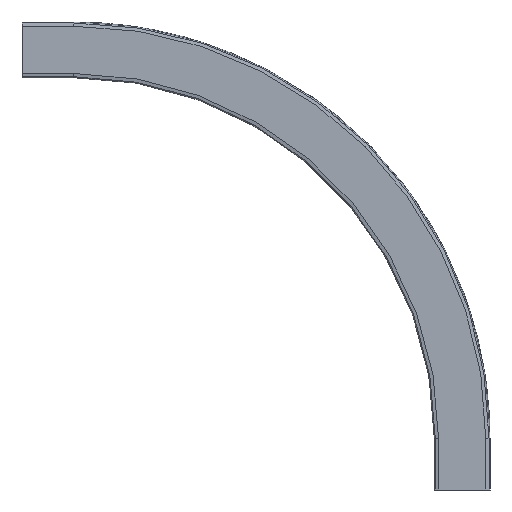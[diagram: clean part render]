
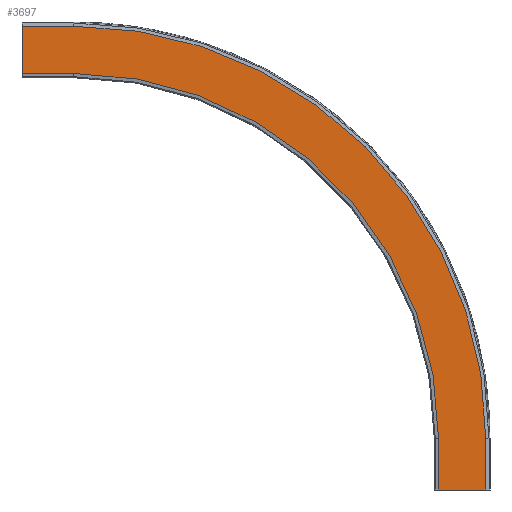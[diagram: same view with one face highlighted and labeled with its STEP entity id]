
A CAD part, front view. The second image highlights one B-rep face of the part: STEP entity #3697.
In plain terms, the highlighted planar face has unit normal (0, -1, 0).
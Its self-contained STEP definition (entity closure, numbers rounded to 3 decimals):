
#399=FACE_OUTER_BOUND('',#607,.T.);
#607=EDGE_LOOP('',(#3369,#3370,#3371,#3372,#3373,#3374,#3375,#3376));
#709=CIRCLE('',#3974,636.5);
#712=CIRCLE('',#3980,563.5);
#1050=LINE('',#6977,#1416);
#1055=LINE('',#6986,#1421);
#1057=LINE('',#6991,#1423);
#1072=LINE('',#7031,#1438);
#1077=LINE('',#7042,#1443);
#1078=LINE('',#7044,#1444);
#1416=VECTOR('',#4815,10.);
#1421=VECTOR('',#4822,10.);
#1423=VECTOR('',#4826,10.);
#1438=VECTOR('',#4867,10.);
#1443=VECTOR('',#4880,10.);
#1444=VECTOR('',#4883,10.);
#1772=VERTEX_POINT('',#6974);
#1773=VERTEX_POINT('',#6976);
#1776=VERTEX_POINT('',#6983);
#1777=VERTEX_POINT('',#6988);
#1787=VERTEX_POINT('',#7014);
#1789=VERTEX_POINT('',#7024);
#1790=VERTEX_POINT('',#7029);
#1792=VERTEX_POINT('',#7040);
#2288=EDGE_CURVE('',#1773,#1772,#1050,.T.);
#2293=EDGE_CURVE('',#1773,#1776,#1055,.T.);
#2295=EDGE_CURVE('',#1772,#1777,#1057,.T.);
#2308=EDGE_CURVE('',#1777,#1787,#709,.T.);
#2314=EDGE_CURVE('',#1776,#1789,#712,.T.);
#2316=EDGE_CURVE('',#1787,#1790,#1072,.T.);
#2321=EDGE_CURVE('',#1789,#1792,#1077,.T.);
#2322=EDGE_CURVE('',#1790,#1792,#1078,.T.);
#3369=ORIENTED_EDGE('',*,*,#2322,.T.);
#3370=ORIENTED_EDGE('',*,*,#2321,.F.);
#3371=ORIENTED_EDGE('',*,*,#2314,.F.);
#3372=ORIENTED_EDGE('',*,*,#2293,.F.);
#3373=ORIENTED_EDGE('',*,*,#2288,.T.);
#3374=ORIENTED_EDGE('',*,*,#2295,.T.);
#3375=ORIENTED_EDGE('',*,*,#2308,.T.);
#3376=ORIENTED_EDGE('',*,*,#2316,.T.);
#3506=PLANE('',#3986);
#3697=ADVANCED_FACE('',(#399),#3506,.T.);
#3974=AXIS2_PLACEMENT_3D('',#7016,#4847,#4848);
#3980=AXIS2_PLACEMENT_3D('',#7027,#4862,#4863);
#3986=AXIS2_PLACEMENT_3D('',#7043,#4881,#4882);
#4815=DIRECTION('',(1.,0.,0.));
#4822=DIRECTION('',(0.,0.,1.));
#4826=DIRECTION('',(0.,0.,1.));
#4847=DIRECTION('center_axis',(0.,-1.,0.));
#4848=DIRECTION('ref_axis',(1.,0.,0.));
#4862=DIRECTION('center_axis',(0.,-1.,0.));
#4863=DIRECTION('ref_axis',(1.,0.,0.));
#4867=DIRECTION('',(-1.,0.,0.));
#4880=DIRECTION('',(-1.,0.,0.));
#4881=DIRECTION('center_axis',(0.,-1.,0.));
#4882=DIRECTION('ref_axis',(1.,0.,0.));
#4883=DIRECTION('',(0.,0.,-1.));
#6974=CARTESIAN_POINT('',(36.5,-11.,0.));
#6976=CARTESIAN_POINT('',(-36.5,-11.,0.));
#6977=CARTESIAN_POINT('',(-36.5,-11.,0.));
#6983=CARTESIAN_POINT('',(-36.5,-11.,80.));
#6986=CARTESIAN_POINT('',(-36.5,-11.,0.));
#6988=CARTESIAN_POINT('',(36.5,-11.,80.));
#6991=CARTESIAN_POINT('',(36.5,-11.,0.));
#7014=CARTESIAN_POINT('',(-600.,-11.,716.5));
#7016=CARTESIAN_POINT('Origin',(-600.,-11.,80.));
#7024=CARTESIAN_POINT('',(-600.,-11.,643.5));
#7027=CARTESIAN_POINT('Origin',(-600.,-11.,80.));
#7029=CARTESIAN_POINT('',(-680.,-11.,716.5));
#7031=CARTESIAN_POINT('',(422.478,-11.,716.5));
#7040=CARTESIAN_POINT('',(-680.,-11.,643.5));
#7042=CARTESIAN_POINT('',(422.478,-11.,643.5));
#7043=CARTESIAN_POINT('Origin',(422.478,-11.,716.5));
#7044=CARTESIAN_POINT('',(-680.,-11.,699.75));
